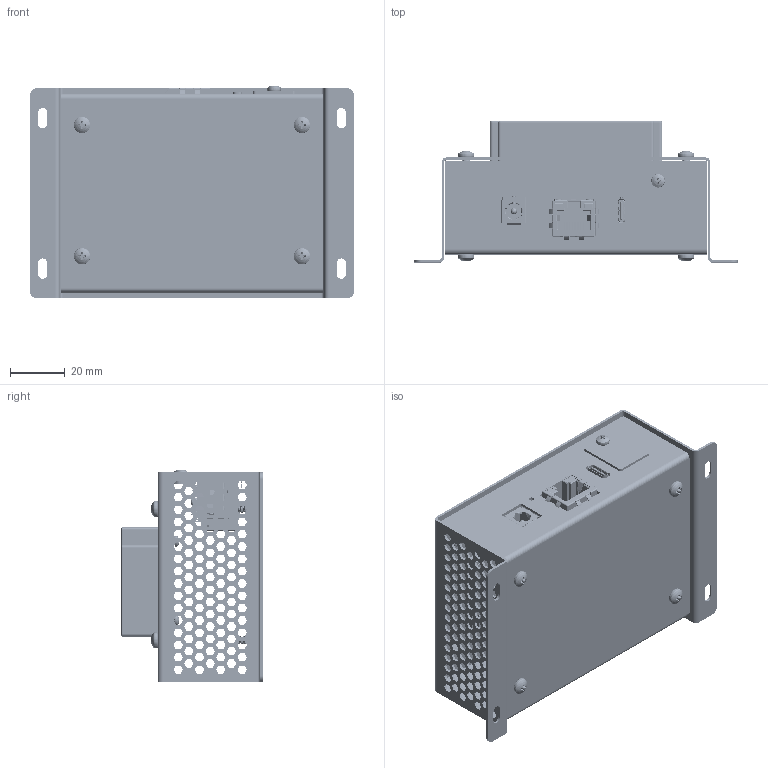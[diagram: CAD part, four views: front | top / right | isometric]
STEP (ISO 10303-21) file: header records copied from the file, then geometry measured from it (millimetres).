
FILE_DESCRIPTION (( 'STEP AP214' ), '1' );
FILE_NAME ('CORE04-XX_Website.STEP', '2025-11-28T17:55:37', ( '' ), ( '' ), 'SwSTEP 2.0', 'SolidWorks 2023', '' );
FILE_SCHEMA (( 'AUTOMOTIVE_DESIGN' ));
Length unit declared in the file: millimetre
Products named in the file (1): CORE04-XX_Website
Bounding box: 118.32 x 51.66 x 77.81 mm (x, y, z)
Volume: 66961.5 mm3; surface area: 74200.2 mm2
Topology: 48 solids, 85 shells, 9087 faces, 25255 edges, 16444 vertices
Faces by surface type: plane 5379, cylinder 3041, bspline 365, cone 185, torus 77, sphere 40
Full cylindrical faces by diameter (mm): 1.6 x4, 2 x1, 2.9 x1, 3 x2, 3.4 x8, 4 x4, 4.22 x1
Entity records: 323944 total; most frequent: CARTESIAN_POINT 95039, ORIENTED_EDGE 50374, DIRECTION 43979, EDGE_CURVE 25187, LINE 16987, VECTOR 16987, VERTEX_POINT 16431, AXIS2_PLACEMENT_3D 13496
